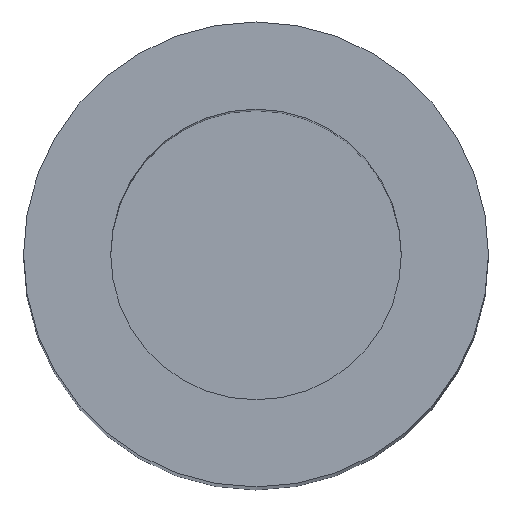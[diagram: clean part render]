
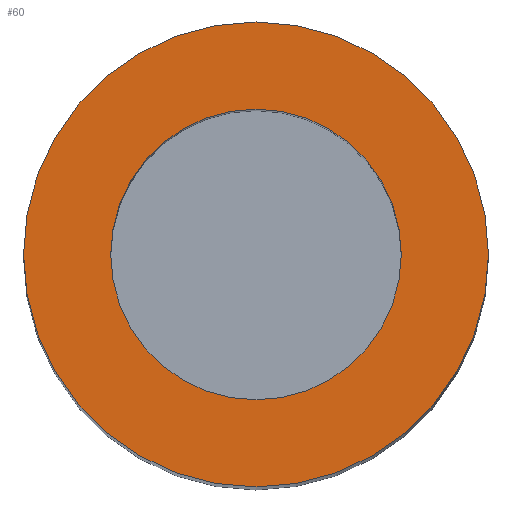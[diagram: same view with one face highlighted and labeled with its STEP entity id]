
A CAD part, top view. The second image highlights one B-rep face of the part: STEP entity #60.
In plain terms, the highlighted planar face has unit normal (0, 0, 1).
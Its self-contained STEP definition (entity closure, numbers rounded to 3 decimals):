
#13 = EDGE_CURVE ( 'NONE', #269, #151, #247, .T. ) ;
#14 = CIRCLE ( 'NONE', #306, 1.25 ) ;
#18 = DIRECTION ( 'NONE',  ( 1., 0., 0. ) ) ;
#21 = VERTEX_POINT ( 'NONE', #147 ) ;
#30 = EDGE_CURVE ( 'NONE', #21, #139, #207, .T. ) ;
#50 = CARTESIAN_POINT ( 'NONE',  ( 1.25, 0., 0. ) ) ;
#57 = CARTESIAN_POINT ( 'NONE',  ( 0., 0., 0. ) ) ;
#60 = ADVANCED_FACE ( 'NONE', ( #240, #133 ), #302, .T. ) ;
#69 = CARTESIAN_POINT ( 'NONE',  ( 0., 0., 0. ) ) ;
#79 = EDGE_CURVE ( 'NONE', #151, #269, #14, .T. ) ;
#81 = CARTESIAN_POINT ( 'NONE',  ( -1.25, 0., 0. ) ) ;
#83 = DIRECTION ( 'NONE',  ( 1., 0., 0. ) ) ;
#88 = CARTESIAN_POINT ( 'NONE',  ( 0., 0., 0. ) ) ;
#113 = ORIENTED_EDGE ( 'NONE', *, *, #79, .F. ) ;
#117 = DIRECTION ( 'NONE',  ( 0., 0., 1. ) ) ;
#129 = ORIENTED_EDGE ( 'NONE', *, *, #30, .T. ) ;
#133 = FACE_BOUND ( 'NONE', #167, .T. ) ;
#136 = DIRECTION ( 'NONE',  ( 1., 0., 0. ) ) ;
#139 = VERTEX_POINT ( 'NONE', #309 ) ;
#147 = CARTESIAN_POINT ( 'NONE',  ( -2., 0., 0. ) ) ;
#148 = DIRECTION ( 'NONE',  ( 1., 0., 0. ) ) ;
#151 = VERTEX_POINT ( 'NONE', #81 ) ;
#167 = EDGE_LOOP ( 'NONE', ( #270, #113 ) ) ;
#168 = CIRCLE ( 'NONE', #264, 2. ) ;
#189 = AXIS2_PLACEMENT_3D ( 'NONE', #319, #117, #136 ) ;
#194 = DIRECTION ( 'NONE',  ( 1., 0., 0. ) ) ;
#206 = AXIS2_PLACEMENT_3D ( 'NONE', #88, #290, #194 ) ;
#207 = CIRCLE ( 'NONE', #189, 2. ) ;
#237 = DIRECTION ( 'NONE',  ( 0., 0., 1. ) ) ;
#240 = FACE_OUTER_BOUND ( 'NONE', #245, .T. ) ;
#245 = EDGE_LOOP ( 'NONE', ( #303, #129 ) ) ;
#247 = CIRCLE ( 'NONE', #206, 1.25 ) ;
#250 = CARTESIAN_POINT ( 'NONE',  ( 1.25, 0., 0. ) ) ;
#264 = AXIS2_PLACEMENT_3D ( 'NONE', #57, #237, #83 ) ;
#269 = VERTEX_POINT ( 'NONE', #50 ) ;
#270 = ORIENTED_EDGE ( 'NONE', *, *, #13, .F. ) ;
#290 = DIRECTION ( 'NONE',  ( 0., 0., 1. ) ) ;
#302 = PLANE ( 'NONE',  #323 ) ;
#303 = ORIENTED_EDGE ( 'NONE', *, *, #321, .T. ) ;
#306 = AXIS2_PLACEMENT_3D ( 'NONE', #69, #330, #148 ) ;
#309 = CARTESIAN_POINT ( 'NONE',  ( 2., 0., 0. ) ) ;
#319 = CARTESIAN_POINT ( 'NONE',  ( 0., 0., 0. ) ) ;
#321 = EDGE_CURVE ( 'NONE', #139, #21, #168, .T. ) ;
#323 = AXIS2_PLACEMENT_3D ( 'NONE', #250, #326, #18 ) ;
#326 = DIRECTION ( 'NONE',  ( 0., 0., 1. ) ) ;
#330 = DIRECTION ( 'NONE',  ( 0., 0., 1. ) ) ;
